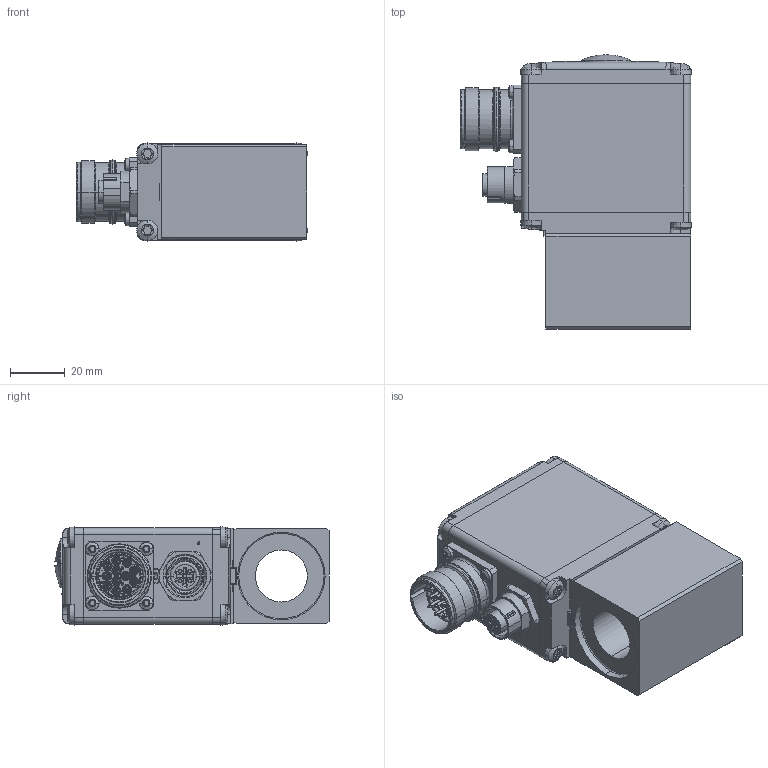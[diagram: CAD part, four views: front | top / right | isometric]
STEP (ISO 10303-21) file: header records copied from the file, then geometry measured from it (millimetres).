
FILE_DESCRIPTION (( 'STEP AP214' ), '1' );
FILE_NAME ('ME35_19x50-PI...AR.STEP', '2014-01-22T09:15:37', ( '' ), ( '' ), 'SwSTEP 2.0', 'SolidWorks 2012', '' );
FILE_SCHEMA (( 'AUTOMOTIVE_DESIGN' ));
Length unit declared in the file: millimetre
Products named in the file (1): ME35_19x50-PI...AR
Bounding box: 84.6 x 100.39 x 35.9 mm (x, y, z)
Volume: 176143.8 mm3; surface area: 60312.9 mm2
Topology: 55 solids, 55 shells, 4580 faces, 12364 edges, 8018 vertices
Faces by surface type: plane 2472, cylinder 1174, torus 376, cone 353, bspline 132, sphere 73
Entity records: 210397 total; most frequent: CARTESIAN_POINT 44801, ORIENTED_EDGE 24558, DIRECTION 23229, EDGE_CURVE 12279, VERTEX_POINT 7994, VECTOR 7835, LINE 7835, AXIS2_PLACEMENT_3D 7697
